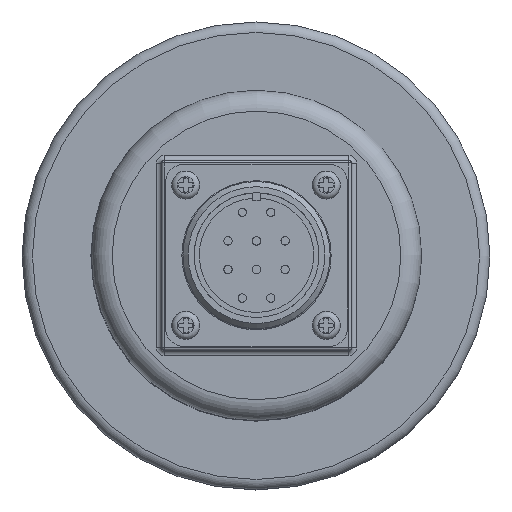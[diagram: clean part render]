
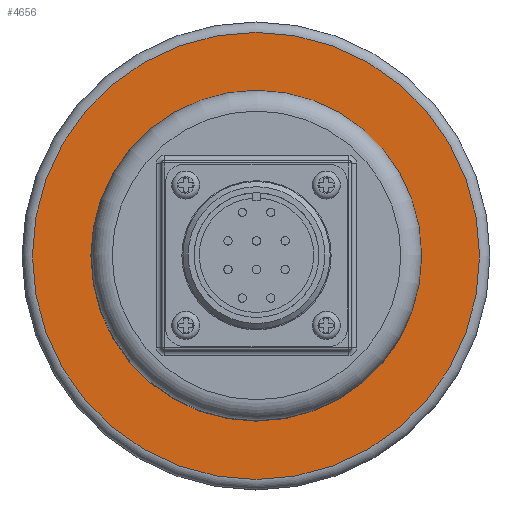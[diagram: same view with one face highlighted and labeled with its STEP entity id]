
A CAD part, top view. The second image highlights one B-rep face of the part: STEP entity #4656.
In plain terms, the highlighted planar face has unit normal (0, 0, 1).
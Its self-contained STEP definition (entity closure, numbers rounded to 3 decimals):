
#4237 = VERTEX_POINT('',#4238);
#4238 = CARTESIAN_POINT('',(31.75,0.,25.));
#4246 = EDGE_CURVE('',#4237,#4237,#4247,.T.);
#4247 = CIRCLE('',#4248,31.75);
#4248 = AXIS2_PLACEMENT_3D('',#4249,#4250,#4251);
#4249 = CARTESIAN_POINT('',(0.,0.,25.));
#4250 = DIRECTION('',(0.,0.,1.));
#4251 = DIRECTION('',(1.,0.,0.));
#4656 = ADVANCED_FACE('',(#4657,#4668),#4671,.T.);
#4657 = FACE_BOUND('',#4658,.T.);
#4658 = EDGE_LOOP('',(#4659));
#4659 = ORIENTED_EDGE('',*,*,#4660,.T.);
#4660 = EDGE_CURVE('',#4661,#4661,#4663,.T.);
#4661 = VERTEX_POINT('',#4662);
#4662 = CARTESIAN_POINT('',(42.985,0.,25.));
#4663 = CIRCLE('',#4664,42.985);
#4664 = AXIS2_PLACEMENT_3D('',#4665,#4666,#4667);
#4665 = CARTESIAN_POINT('',(0.,0.,25.));
#4666 = DIRECTION('',(0.,0.,1.));
#4667 = DIRECTION('',(1.,0.,0.));
#4668 = FACE_BOUND('',#4669,.T.);
#4669 = EDGE_LOOP('',(#4670));
#4670 = ORIENTED_EDGE('',*,*,#4246,.F.);
#4671 = PLANE('',#4672);
#4672 = AXIS2_PLACEMENT_3D('',#4673,#4674,#4675);
#4673 = CARTESIAN_POINT('',(0.,0.,25.));
#4674 = DIRECTION('',(0.,0.,1.));
#4675 = DIRECTION('',(1.,0.,0.));
